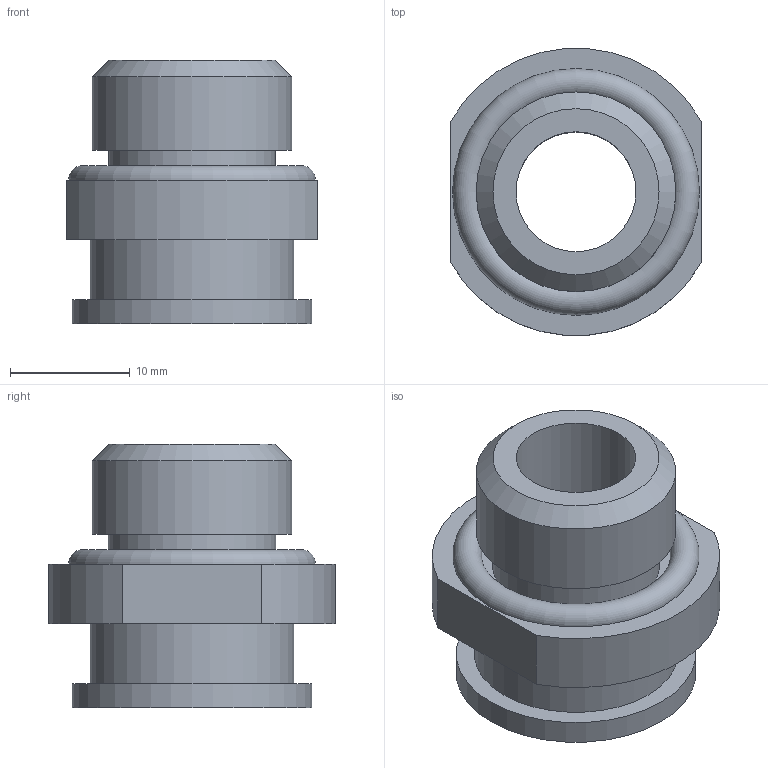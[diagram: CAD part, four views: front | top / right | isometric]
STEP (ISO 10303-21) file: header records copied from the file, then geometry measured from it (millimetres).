
FILE_DESCRIPTION(('STEP AP214'),'1');
FILE_NAME('.stp','2024-08-29T05:33:11',(' '),(' '),'Spatial InterOp 3D',' ',' ');
FILE_SCHEMA(('AUTOMOTIVE_DESIGN { 1 0 10303 214 1 1 1 1 }'));
Length unit declared in the file: millimetre
Products named in the file (2): HGL-30-G3-K; パーツ3
Assembly tree (1 placements, depth 2):
  HGL-30-G3-K
    パーツ3
Bounding box: 21 x 23.92 x 22 mm (x, y, z)
Volume: 4226.7 mm3; surface area: 3127.6 mm2
Topology: 1 solids, 1 shells, 18 faces, 33 edges, 22 vertices
Faces by surface type: plane 9, cylinder 7, cone 1, torus 1
Full cylindrical faces by diameter (mm): 10 x1, 13.95 x1, 16.662 x1, 17 x1, 20 x1
Entity records: 601 total; most frequent: DIRECTION 82, CARTESIAN_POINT 66, ORIENTED_EDGE 50, AXIS2_PLACEMENT_3D 37, EDGE_LOOP 32, EDGE_CURVE 25, FACE_OUTER_BOUND 24, VERTEX_POINT 21
